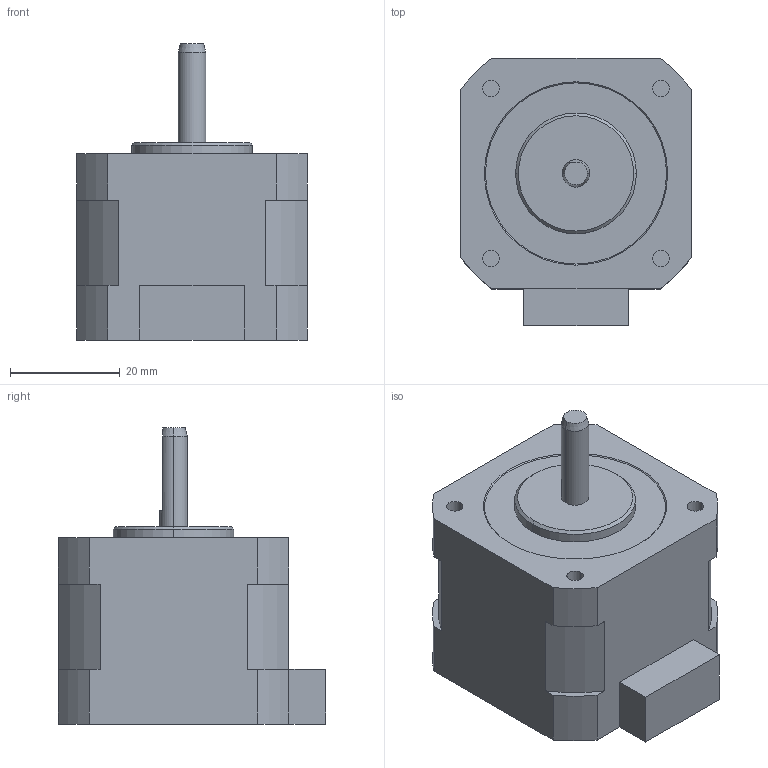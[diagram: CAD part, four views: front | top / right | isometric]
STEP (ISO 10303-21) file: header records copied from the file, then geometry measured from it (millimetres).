
FILE_DESCRIPTION (( 'STEP AP203' ), '1' );
FILE_NAME ('PMSA-U42D1_3D.STEP', '2017-01-31T04:24:39', ( 'user01' ), ( '' ), 'SwSTEP 2.0', 'SolidWorks 2014', '' );
FILE_SCHEMA (( 'CONFIG_CONTROL_DESIGN' ));
Length unit declared in the file: millimetre
Products named in the file (1): PMSA-U42D1_3D
Bounding box: 42 x 48.7 x 54 mm (x, y, z)
Volume: 59507.6 mm3; surface area: 9664.7 mm2
Topology: 1 solids, 1 shells, 58 faces, 143 edges, 94 vertices
Faces by surface type: plane 27, cylinder 24, cone 7
Entity records: 1821 total; most frequent: DIRECTION 318, CARTESIAN_POINT 310, ORIENTED_EDGE 286, EDGE_CURVE 143, AXIS2_PLACEMENT_3D 118, VERTEX_POINT 94, VECTOR 82, LINE 82
